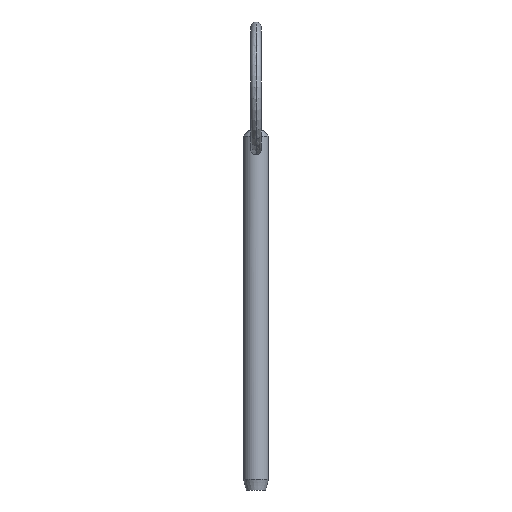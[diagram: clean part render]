
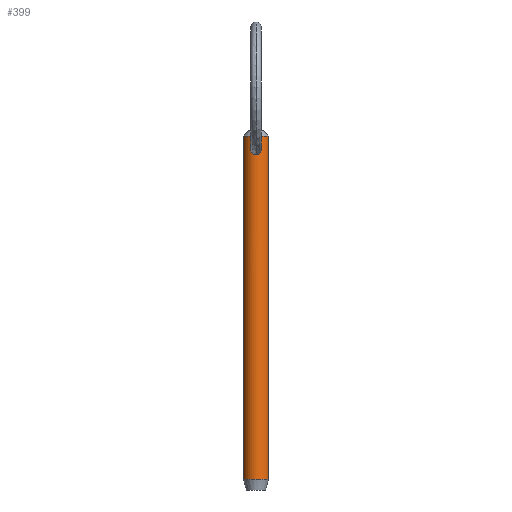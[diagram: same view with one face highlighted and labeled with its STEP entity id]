
A CAD part, front view. The second image highlights one B-rep face of the part: STEP entity #399.
In plain terms, the highlighted cylindrical face has radius 2.38 mm (diameter 4.76 mm), a partial arc.
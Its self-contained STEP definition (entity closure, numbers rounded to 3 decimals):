
#3 = DIRECTION ( 'NONE',  ( -1., 0., 0. ) ) ;
#12 = VERTEX_POINT ( 'NONE', #296 ) ;
#26 = CARTESIAN_POINT ( 'NONE',  ( 0.981, -2.169, 59.364 ) ) ;
#28 = DIRECTION ( 'NONE',  ( 0., 0., -1. ) ) ;
#40 = ORIENTED_EDGE ( 'NONE', *, *, #190, .T. ) ;
#41 = EDGE_LOOP ( 'NONE', ( #337, #40 ) ) ;
#56 = CARTESIAN_POINT ( 'NONE',  ( 0.134, -2.38, 60.668 ) ) ;
#59 = LINE ( 'NONE', #382, #392 ) ;
#60 = EDGE_CURVE ( 'NONE', #12, #142, #353, .T. ) ;
#61 = CARTESIAN_POINT ( 'NONE',  ( -0.268, -2.368, 58.651 ) ) ;
#64 = CARTESIAN_POINT ( 'NONE',  ( 0.508, -2.328, 60.524 ) ) ;
#65 = CARTESIAN_POINT ( 'NONE',  ( 0.811, -2.24, 59.006 ) ) ;
#68 = CARTESIAN_POINT ( 'NONE',  ( 0.513, -2.327, 58.748 ) ) ;
#75 = LINE ( 'NONE', #214, #165 ) ;
#91 = CARTESIAN_POINT ( 'NONE',  ( 0., -2.38, 60.668 ) ) ;
#98 = CARTESIAN_POINT ( 'NONE',  ( 0.793, -2.246, 60.252 ) ) ;
#106 = VERTEX_POINT ( 'NONE', #127 ) ;
#112 = EDGE_CURVE ( 'NONE', #282, #346, #470, .T. ) ;
#120 = CARTESIAN_POINT ( 'NONE',  ( 0., -2.38, 58.625 ) ) ;
#127 = CARTESIAN_POINT ( 'NONE',  ( 0., -2.38, 60.668 ) ) ;
#130 = DIRECTION ( 'NONE',  ( 0., 0., -1. ) ) ;
#136 = CARTESIAN_POINT ( 'NONE',  ( -0.613, -2.302, 60.446 ) ) ;
#137 = CARTESIAN_POINT ( 'NONE',  ( -0.514, -2.327, 58.749 ) ) ;
#142 = VERTEX_POINT ( 'NONE', #340 ) ;
#148 = CARTESIAN_POINT ( 'NONE',  ( 0., -2.38, 58.625 ) ) ;
#154 = VERTEX_POINT ( 'NONE', #163 ) ;
#163 = CARTESIAN_POINT ( 'NONE',  ( 0., -2.38, 58.625 ) ) ;
#164 = B_SPLINE_CURVE_WITH_KNOTS ( 'NONE', 3,
 ( #120, #239, #61, #137, #417, #178, #454, #175, #320, #169, #279, #136, #317, #348, #318, #91 ),
 .UNSPECIFIED., .F., .F.,
 ( 4, 2, 2, 2, 2, 2, 2, 4 ),
 ( 0.006, 0.006, 0.007, 0.007, 0.007, 0.008, 0.009, 0.009 ),
 .UNSPECIFIED. ) ;
#165 = VECTOR ( 'NONE', #130, 1000. ) ;
#169 = CARTESIAN_POINT ( 'NONE',  ( -0.991, -2.164, 59.901 ) ) ;
#175 = CARTESIAN_POINT ( 'NONE',  ( -0.982, -2.169, 59.365 ) ) ;
#178 = CARTESIAN_POINT ( 'NONE',  ( -0.811, -2.24, 59.006 ) ) ;
#181 = ORIENTED_EDGE ( 'NONE', *, *, #60, .T. ) ;
#187 = CARTESIAN_POINT ( 'NONE',  ( 1.003, -2.158, 59.499 ) ) ;
#190 = EDGE_CURVE ( 'NONE', #154, #106, #164, .T. ) ;
#202 = B_SPLINE_CURVE_WITH_KNOTS ( 'NONE', 3,
 ( #249, #56, #452, #64, #347, #98, #242, #398, #253, #187, #26, #219, #65, #466, #68, #290, #362, #148 ),
 .UNSPECIFIED., .F., .F.,
 ( 4, 2, 2, 2, 2, 2, 2, 2, 4 ),
 ( 0.003, 0.003, 0.003, 0.004, 0.004, 0.005, 0.005, 0.005, 0.006 ),
 .UNSPECIFIED. ) ;
#211 = EDGE_LOOP ( 'NONE', ( #388, #232, #328, #181 ) ) ;
#213 = EDGE_CURVE ( 'NONE', #282, #142, #75, .T. ) ;
#214 = CARTESIAN_POINT ( 'NONE',  ( 2.38, 0., 58.4 ) ) ;
#219 = CARTESIAN_POINT ( 'NONE',  ( 0.885, -2.21, 59.117 ) ) ;
#222 = FACE_BOUND ( 'NONE', #41, .T. ) ;
#232 = ORIENTED_EDGE ( 'NONE', *, *, #112, .T. ) ;
#238 = DIRECTION ( 'NONE',  ( 1., 0., 0. ) ) ;
#239 = CARTESIAN_POINT ( 'NONE',  ( -0.133, -2.38, 58.625 ) ) ;
#241 = EDGE_CURVE ( 'NONE', #346, #12, #59, .T. ) ;
#242 = CARTESIAN_POINT ( 'NONE',  ( 0.865, -2.218, 60.14 ) ) ;
#249 = CARTESIAN_POINT ( 'NONE',  ( 0., -2.38, 60.668 ) ) ;
#253 = CARTESIAN_POINT ( 'NONE',  ( 0.996, -2.162, 59.764 ) ) ;
#255 = CARTESIAN_POINT ( 'NONE',  ( 0., 0., 58.4 ) ) ;
#257 = CARTESIAN_POINT ( 'NONE',  ( -2.38, 0., 62.14 ) ) ;
#279 = CARTESIAN_POINT ( 'NONE',  ( -0.88, -2.219, 60.16 ) ) ;
#282 = VERTEX_POINT ( 'NONE', #461 ) ;
#288 = DIRECTION ( 'NONE',  ( 0., 0., -1. ) ) ;
#290 = CARTESIAN_POINT ( 'NONE',  ( 0.268, -2.368, 58.651 ) ) ;
#296 = CARTESIAN_POINT ( 'NONE',  ( -2.38, 0., -3.08 ) ) ;
#304 = AXIS2_PLACEMENT_3D ( 'NONE', #376, #377, #238 ) ;
#316 = EDGE_CURVE ( 'NONE', #106, #154, #202, .T. ) ;
#317 = CARTESIAN_POINT ( 'NONE',  ( -0.505, -2.329, 60.526 ) ) ;
#318 = CARTESIAN_POINT ( 'NONE',  ( -0.134, -2.38, 60.668 ) ) ;
#319 = AXIS2_PLACEMENT_3D ( 'NONE', #255, #28, #426 ) ;
#320 = CARTESIAN_POINT ( 'NONE',  ( -1.004, -2.158, 59.499 ) ) ;
#328 = ORIENTED_EDGE ( 'NONE', *, *, #241, .T. ) ;
#337 = ORIENTED_EDGE ( 'NONE', *, *, #316, .T. ) ;
#340 = CARTESIAN_POINT ( 'NONE',  ( 2.38, 0., -3.08 ) ) ;
#346 = VERTEX_POINT ( 'NONE', #257 ) ;
#347 = CARTESIAN_POINT ( 'NONE',  ( 0.615, -2.301, 60.444 ) ) ;
#348 = CARTESIAN_POINT ( 'NONE',  ( -0.267, -2.368, 60.637 ) ) ;
#351 = CYLINDRICAL_SURFACE ( 'NONE', #319, 2.38 ) ;
#353 = CIRCLE ( 'NONE', #355, 2.38 ) ;
#355 = AXIS2_PLACEMENT_3D ( 'NONE', #365, #400, #3 ) ;
#362 = CARTESIAN_POINT ( 'NONE',  ( 0.133, -2.38, 58.625 ) ) ;
#365 = CARTESIAN_POINT ( 'NONE',  ( 0., 0., -3.08 ) ) ;
#376 = CARTESIAN_POINT ( 'NONE',  ( 0., 0., 62.14 ) ) ;
#377 = DIRECTION ( 'NONE',  ( 0., 0., -1. ) ) ;
#382 = CARTESIAN_POINT ( 'NONE',  ( -2.38, 0., 58.4 ) ) ;
#388 = ORIENTED_EDGE ( 'NONE', *, *, #213, .F. ) ;
#392 = VECTOR ( 'NONE', #288, 1000. ) ;
#398 = CARTESIAN_POINT ( 'NONE',  ( 0.966, -2.176, 59.897 ) ) ;
#399 = ADVANCED_FACE ( 'NONE', ( #418, #222 ), #351, .T. ) ;
#400 = DIRECTION ( 'NONE',  ( 0., 0., 1. ) ) ;
#417 = CARTESIAN_POINT ( 'NONE',  ( -0.626, -2.298, 58.822 ) ) ;
#418 = FACE_OUTER_BOUND ( 'NONE', #211, .T. ) ;
#426 = DIRECTION ( 'NONE',  ( -1., 0., 0. ) ) ;
#452 = CARTESIAN_POINT ( 'NONE',  ( 0.268, -2.368, 60.637 ) ) ;
#454 = CARTESIAN_POINT ( 'NONE',  ( -0.885, -2.21, 59.117 ) ) ;
#461 = CARTESIAN_POINT ( 'NONE',  ( 2.38, 0., 62.14 ) ) ;
#466 = CARTESIAN_POINT ( 'NONE',  ( 0.625, -2.299, 58.821 ) ) ;
#470 = CIRCLE ( 'NONE', #304, 2.38 ) ;
